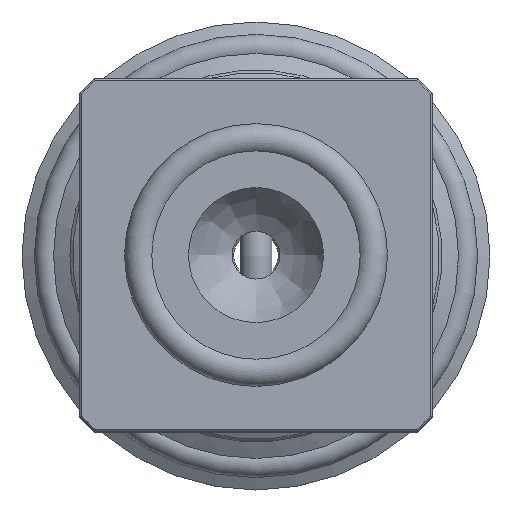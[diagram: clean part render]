
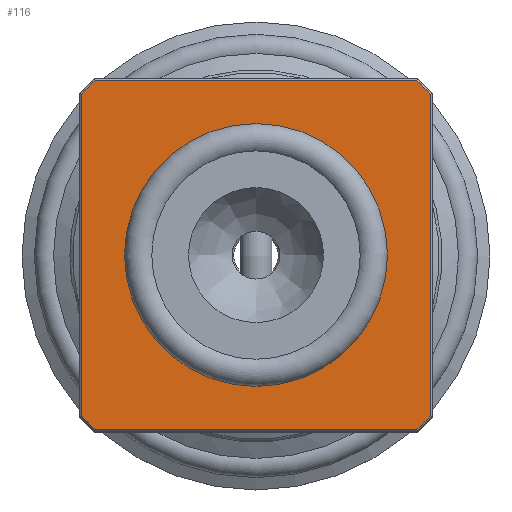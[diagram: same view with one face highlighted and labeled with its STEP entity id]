
A CAD part, top view. The second image highlights one B-rep face of the part: STEP entity #116.
In plain terms, the highlighted planar face has unit normal (0, 0, 1).
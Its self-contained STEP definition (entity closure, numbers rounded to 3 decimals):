
#116 = ADVANCED_FACE( '', ( #238, #239 ), #240, .T. );
#238 = FACE_OUTER_BOUND( '', #393, .T. );
#239 = FACE_BOUND( '', #394, .T. );
#240 = PLANE( '', #395 );
#393 = EDGE_LOOP( '', ( #1098, #1099, #1100, #1101, #1102, #1103, #1104, #1105 ) );
#394 = EDGE_LOOP( '', ( #1106 ) );
#395 = AXIS2_PLACEMENT_3D( '', #1107, #1108, #1109 );
#1098 = ORIENTED_EDGE( '', *, *, #2363, .T. );
#1099 = ORIENTED_EDGE( '', *, *, #2323, .T. );
#1100 = ORIENTED_EDGE( '', *, *, #2357, .T. );
#1101 = ORIENTED_EDGE( '', *, *, #2364, .T. );
#1102 = ORIENTED_EDGE( '', *, *, #2365, .T. );
#1103 = ORIENTED_EDGE( '', *, *, #2366, .T. );
#1104 = ORIENTED_EDGE( '', *, *, #2311, .T. );
#1105 = ORIENTED_EDGE( '', *, *, #2367, .T. );
#1106 = ORIENTED_EDGE( '', *, *, #2354, .T. );
#1107 = CARTESIAN_POINT( '', ( -15.875, 15.875, 6.767 ) );
#1108 = DIRECTION( '', ( 0., 0., 1. ) );
#1109 = DIRECTION( '', ( 1., 0., 0. ) );
#2311 = EDGE_CURVE( '', #14311, #14308, #14312, .T. );
#2323 = EDGE_CURVE( '', #14326, #14331, #14333, .T. );
#2354 = EDGE_CURVE( '', #14380, #14380, #14381, .T. );
#2357 = EDGE_CURVE( '', #14331, #14383, #14385, .T. );
#2363 = EDGE_CURVE( '', #14391, #14326, #14392, .T. );
#2364 = EDGE_CURVE( '', #14383, #14393, #14394, .T. );
#2365 = EDGE_CURVE( '', #14393, #14395, #14396, .T. );
#2366 = EDGE_CURVE( '', #14395, #14311, #14397, .T. );
#2367 = EDGE_CURVE( '', #14308, #14391, #14398, .T. );
#14308 = VERTEX_POINT( '', #17917 );
#14311 = VERTEX_POINT( '', #17923 );
#14312 = CIRCLE( '', #17924, 21.3 );
#14326 = VERTEX_POINT( '', #17949 );
#14331 = VERTEX_POINT( '', #17958 );
#14333 = LINE( '', #17963, #17964 );
#14380 = VERTEX_POINT( '', #18020 );
#14381 = CIRCLE( '', #18021, 11.8 );
#14383 = VERTEX_POINT( '', #18023 );
#14385 = CIRCLE( '', #18028, 21.3 );
#14391 = VERTEX_POINT( '', #18041 );
#14392 = CIRCLE( '', #18042, 21.3 );
#14393 = VERTEX_POINT( '', #18043 );
#14394 = LINE( '', #18044, #18045 );
#14395 = VERTEX_POINT( '', #18046 );
#14396 = CIRCLE( '', #18047, 21.3 );
#14397 = LINE( '', #18048, #18049 );
#14398 = LINE( '', #18050, #18051 );
#17917 = CARTESIAN_POINT( '', ( 14.422, 15.675, 6.767 ) );
#17923 = CARTESIAN_POINT( '', ( 15.675, 14.422, 6.767 ) );
#17924 = AXIS2_PLACEMENT_3D( '', #19313, #19314, #19315 );
#17949 = CARTESIAN_POINT( '', ( -15.675, 14.422, 6.767 ) );
#17958 = CARTESIAN_POINT( '', ( -15.675, -14.422, 6.767 ) );
#17963 = CARTESIAN_POINT( '', ( -15.675, 15.875, 6.767 ) );
#17964 = VECTOR( '', #19322, 1000. );
#18020 = CARTESIAN_POINT( '', ( 11.8, 0., 6.767 ) );
#18021 = AXIS2_PLACEMENT_3D( '', #19374, #19375, #19376 );
#18023 = CARTESIAN_POINT( '', ( -14.422, -15.675, 6.767 ) );
#18028 = AXIS2_PLACEMENT_3D( '', #19377, #19378, #19379 );
#18041 = CARTESIAN_POINT( '', ( -14.422, 15.675, 6.767 ) );
#18042 = AXIS2_PLACEMENT_3D( '', #19381, #19382, #19383 );
#18043 = CARTESIAN_POINT( '', ( 14.422, -15.675, 6.767 ) );
#18044 = CARTESIAN_POINT( '', ( -15.875, -15.675, 6.767 ) );
#18045 = VECTOR( '', #19384, 1000. );
#18046 = CARTESIAN_POINT( '', ( 15.675, -14.422, 6.767 ) );
#18047 = AXIS2_PLACEMENT_3D( '', #19385, #19386, #19387 );
#18048 = CARTESIAN_POINT( '', ( 15.675, 15.875, 6.767 ) );
#18049 = VECTOR( '', #19388, 1000. );
#18050 = CARTESIAN_POINT( '', ( -14.499, 15.675, 6.767 ) );
#18051 = VECTOR( '', #19389, 1000. );
#19313 = CARTESIAN_POINT( '', ( 0., 0., 6.767 ) );
#19314 = DIRECTION( '', ( 0., 0., 1. ) );
#19315 = DIRECTION( '', ( 1., 0., 0. ) );
#19322 = DIRECTION( '', ( 0., -1., 0. ) );
#19374 = CARTESIAN_POINT( '', ( 0., 0., 6.767 ) );
#19375 = DIRECTION( '', ( 0., 0., -1. ) );
#19376 = DIRECTION( '', ( 1., 0., 0. ) );
#19377 = CARTESIAN_POINT( '', ( 0., 0., 6.767 ) );
#19378 = DIRECTION( '', ( 0., 0., 1. ) );
#19379 = DIRECTION( '', ( 1., 0., 0. ) );
#19381 = CARTESIAN_POINT( '', ( 0., 0., 6.767 ) );
#19382 = DIRECTION( '', ( 0., 0., 1. ) );
#19383 = DIRECTION( '', ( 1., 0., 0. ) );
#19384 = DIRECTION( '', ( 1., 0., 0. ) );
#19385 = CARTESIAN_POINT( '', ( 0., 0., 6.767 ) );
#19386 = DIRECTION( '', ( 0., 0., 1. ) );
#19387 = DIRECTION( '', ( 1., 0., 0. ) );
#19388 = DIRECTION( '', ( 0., 1., 0. ) );
#19389 = DIRECTION( '', ( -1., 0., 0. ) );
